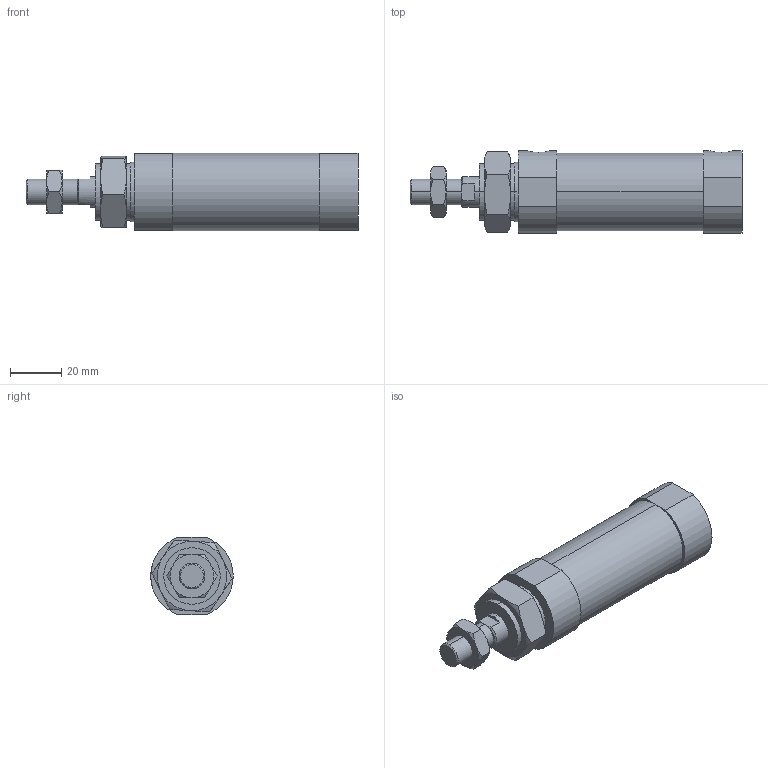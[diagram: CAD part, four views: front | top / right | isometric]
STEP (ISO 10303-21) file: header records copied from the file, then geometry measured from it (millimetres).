
FILE_DESCRIPTION (( 'STEP AP203' ), '1' );
FILE_NAME ('JGND2-25-25-N.STEP', '2016-08-04T02:34:59', ( '' ), ( '' ), 'SwSTEP 2.0', 'SolidWorks 2014', '' );
FILE_SCHEMA (( 'CONFIG_CONTROL_DESIGN' ));
Length unit declared in the file: millimetre
Products named in the file (4): JGND2-25-25-N; J#2-25-25(P)
Assembly tree (3 placements, depth 2):
  JGND2-25-25-N
    J#2-25-25(P)
    (unnamed)
    (unnamed)
Bounding box: 129 x 32 x 30 mm (x, y, z)
Volume: 73551.5 mm3; surface area: 16277.7 mm2
Topology: 3 solids, 3 shells, 89 faces, 198 edges, 116 vertices
Faces by surface type: plane 35, torus 24, cylinder 22, cone 8
Entity records: 3150 total; most frequent: CARTESIAN_POINT 845, DIRECTION 400, ORIENTED_EDGE 388, EDGE_CURVE 194, AXIS2_PLACEMENT_3D 167, VERTEX_POINT 116, EDGE_LOOP 98, FACE_OUTER_BOUND 89
